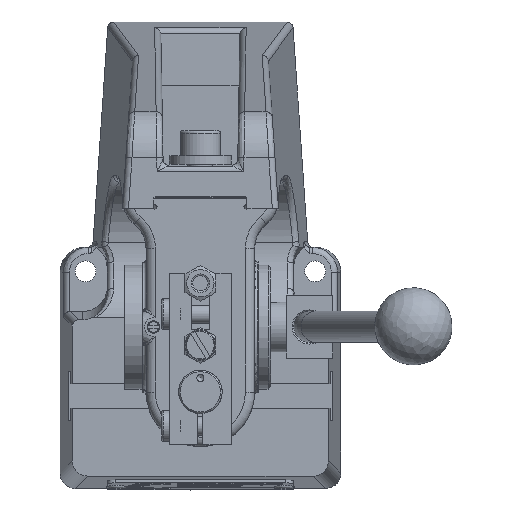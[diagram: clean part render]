
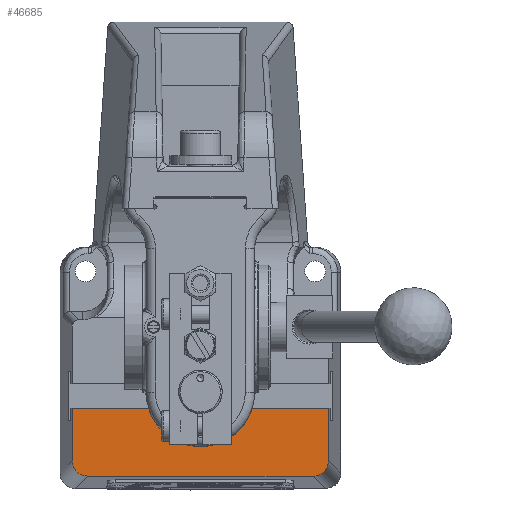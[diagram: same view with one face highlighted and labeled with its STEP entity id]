
A CAD part, top view. The second image highlights one B-rep face of the part: STEP entity #46685.
In plain terms, the highlighted planar face has unit normal (0, 0, 1).
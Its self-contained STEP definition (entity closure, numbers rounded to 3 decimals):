
#3526=ELLIPSE('',#49281,5.038,5.);
#3527=ELLIPSE('',#49282,5.038,5.);
#4001=PLANE('',#49280);
#5456=FACE_OUTER_BOUND('',#8030,.T.);
#8030=EDGE_LOOP('',(#33186,#33187,#33188,#33189,#33190,#33191));
#11248=LINE('',#59933,#15644);
#11258=LINE('',#59954,#15654);
#11265=LINE('',#59968,#15661);
#11266=LINE('',#59972,#15662);
#15644=VECTOR('',#51400,82.601);
#15654=VECTOR('',#51418,16.82);
#15661=VECTOR('',#51427,16.82);
#15662=VECTOR('',#51430,72.639);
#21908=VERTEX_POINT('',#59929);
#21909=VERTEX_POINT('',#59931);
#21916=VERTEX_POINT('',#59953);
#21922=VERTEX_POINT('',#59967);
#21923=VERTEX_POINT('',#59969);
#21924=VERTEX_POINT('',#59971);
#26417=EDGE_CURVE('',#21908,#21909,#11248,.T.);
#26427=EDGE_CURVE('',#21908,#21916,#11258,.T.);
#26434=EDGE_CURVE('',#21922,#21909,#11265,.T.);
#26435=EDGE_CURVE('',#21923,#21922,#3526,.T.);
#26436=EDGE_CURVE('',#21924,#21923,#11266,.T.);
#26437=EDGE_CURVE('',#21916,#21924,#3527,.T.);
#33186=ORIENTED_EDGE('',*,*,#26417,.T.);
#33187=ORIENTED_EDGE('',*,*,#26434,.F.);
#33188=ORIENTED_EDGE('',*,*,#26435,.F.);
#33189=ORIENTED_EDGE('',*,*,#26436,.F.);
#33190=ORIENTED_EDGE('',*,*,#26437,.F.);
#33191=ORIENTED_EDGE('',*,*,#26427,.F.);
#46685=ADVANCED_FACE('',(#5456),#4001,.F.);
#49280=AXIS2_PLACEMENT_3D('',#59966,#51425,#51426);
#49281=AXIS2_PLACEMENT_3D('',#59970,#51428,#51429);
#49282=AXIS2_PLACEMENT_3D('',#59973,#51431,#51432);
#51400=DIRECTION('',(-1.,0.,0.));
#51418=DIRECTION('',(0.,-1.,0.));
#51425=DIRECTION('center_axis',(0.,0.,-1.));
#51426=DIRECTION('ref_axis',(0.,1.,0.));
#51427=DIRECTION('',(0.,1.,0.));
#51428=DIRECTION('center_axis',(0.,0.,-1.));
#51429=DIRECTION('ref_axis',(-0.707,-0.707,0.));
#51430=DIRECTION('',(-1.,0.,0.));
#51431=DIRECTION('center_axis',(0.,0.,-1.));
#51432=DIRECTION('ref_axis',(0.707,-0.707,0.));
#59929=CARTESIAN_POINT('',(41.301,26.,48.));
#59931=CARTESIAN_POINT('',(-41.301,26.,48.));
#59933=CARTESIAN_POINT('',(0.,26.,48.));
#59953=CARTESIAN_POINT('',(41.301,9.18,48.));
#59954=CARTESIAN_POINT('',(41.301,-1.556,48.));
#59966=CARTESIAN_POINT('Origin',(0.,-3.112,48.));
#59967=CARTESIAN_POINT('',(-41.301,9.18,48.));
#59968=CARTESIAN_POINT('',(-41.301,37.444,48.));
#59969=CARTESIAN_POINT('',(-36.32,4.199,48.));
#59970=CARTESIAN_POINT('Origin',(-36.281,9.219,48.));
#59971=CARTESIAN_POINT('',(36.32,4.199,48.));
#59972=CARTESIAN_POINT('',(-22.75,4.199,48.));
#59973=CARTESIAN_POINT('Origin',(36.281,9.219,48.));
